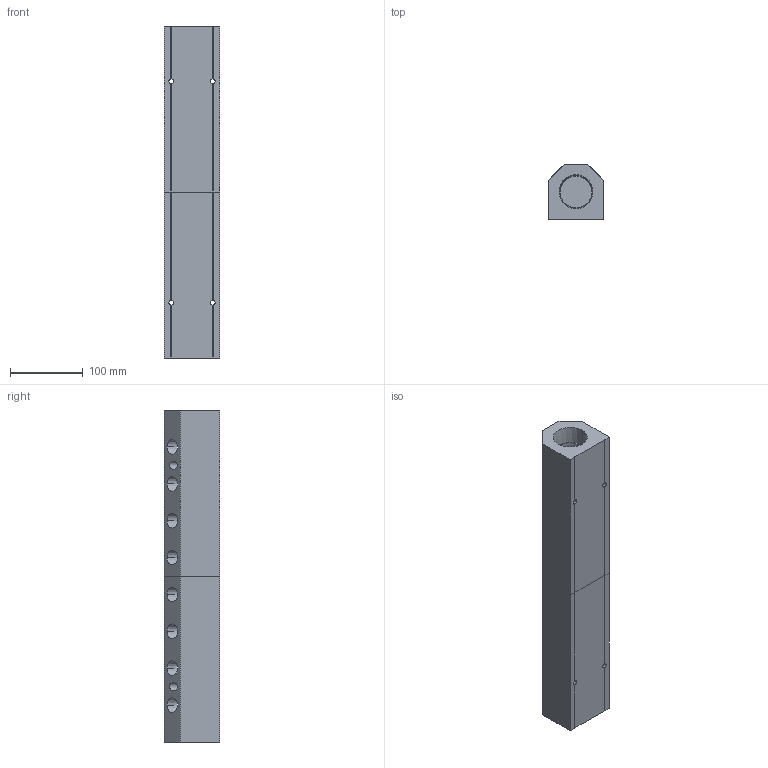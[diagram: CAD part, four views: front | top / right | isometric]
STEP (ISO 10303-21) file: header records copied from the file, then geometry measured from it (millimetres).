
FILE_DESCRIPTION (( 'STEP AP214' ), '1' );
FILE_NAME ('ALM8BD-N8N24-457RB.step', '2022-02-07T09:39:52', ( '' ), ( '' ), 'SwSTEP 2.0', 'SolidWorks 2020', '' );
FILE_SCHEMA (( 'AUTOMOTIVE_DESIGN' ));
Length unit declared in the file: millimetre
Products named in the file (1): ALM8BD-N8N24-457RB
Bounding box: 76.2 x 76.2 x 457 mm (x, y, z)
Volume: 1623301.8 mm3; surface area: 224419.3 mm2
Topology: 2 solids, 2 shells, 377 faces, 988 edges, 656 vertices
Faces by surface type: plane 241, bspline 80, cone 36, cylinder 20
Entity records: 21375 total; most frequent: CARTESIAN_POINT 9038, ORIENTED_EDGE 1976, DIRECTION 1448, EDGE_CURVE 988, LINE 708, VECTOR 708, VERTEX_POINT 656, EDGE_LOOP 458
